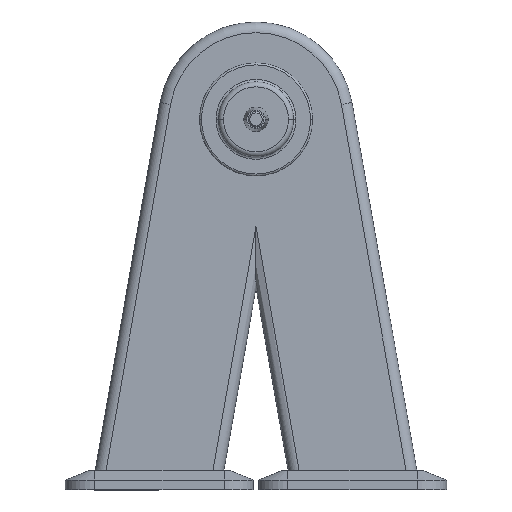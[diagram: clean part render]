
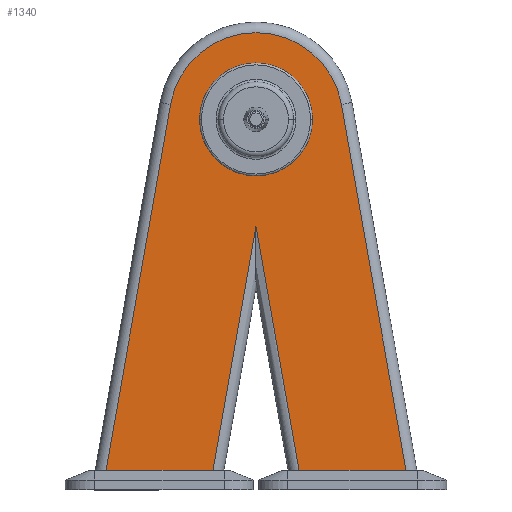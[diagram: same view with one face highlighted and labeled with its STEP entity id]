
A CAD part, top view. The second image highlights one B-rep face of the part: STEP entity #1340.
In plain terms, the highlighted planar face has unit normal (0, 0, 1).
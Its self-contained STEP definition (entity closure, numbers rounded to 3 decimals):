
#55 = ORIENTED_EDGE ( 'NONE', *, *, #2509, .T. ) ;
#260 = DIRECTION ( 'NONE',  ( 0., 0., 1. ) ) ;
#349 = ORIENTED_EDGE ( 'NONE', *, *, #4231, .F. ) ;
#456 = PLANE ( 'NONE',  #3910 ) ;
#478 = AXIS2_PLACEMENT_3D ( 'NONE', #1218, #3568, #1561 ) ;
#544 = DIRECTION ( 'NONE',  ( 0.174, -0.985, 0. ) ) ;
#666 = EDGE_CURVE ( 'NONE', #1329, #1596, #2459, .T. ) ;
#809 = FACE_BOUND ( 'NONE', #2759, .T. ) ;
#834 = CARTESIAN_POINT ( 'NONE',  ( -10.833, 209.147, 63. ) ) ;
#884 = CARTESIAN_POINT ( 'NONE',  ( 0., 20., 63. ) ) ;
#1218 = CARTESIAN_POINT ( 'NONE',  ( 0., 380., 63. ) ) ;
#1225 = VERTEX_POINT ( 'NONE', #2070 ) ;
#1249 = VECTOR ( 'NONE', #1796, 1000. ) ;
#1329 = VERTEX_POINT ( 'NONE', #3796 ) ;
#1340 = ADVANCED_FACE ( 'NONE', ( #809, #1598 ), #456, .T. ) ;
#1560 = CARTESIAN_POINT ( 'NONE',  ( 50.297, -14.664, 63. ) ) ;
#1561 = DIRECTION ( 'NONE',  ( 1., 0., 0. ) ) ;
#1575 = EDGE_CURVE ( 'NONE', #3230, #1329, #2656, .T. ) ;
#1582 = ORIENTED_EDGE ( 'NONE', *, *, #1878, .T. ) ;
#1596 = VERTEX_POINT ( 'NONE', #4288 ) ;
#1598 = FACE_OUTER_BOUND ( 'NONE', #4009, .T. ) ;
#1621 = CARTESIAN_POINT ( 'NONE',  ( 0., 380., 63. ) ) ;
#1796 = DIRECTION ( 'NONE',  ( -0.174, 0.985, 0. ) ) ;
#1809 = DIRECTION ( 'NONE',  ( 1., 0., 0. ) ) ;
#1833 = VERTEX_POINT ( 'NONE', #3431 ) ;
#1863 = CARTESIAN_POINT ( 'NONE',  ( -158.772, -7.91, 63. ) ) ;
#1878 = EDGE_CURVE ( 'NONE', #3514, #3230, #3937, .T. ) ;
#1884 = VECTOR ( 'NONE', #3062, 1000. ) ;
#1888 = ORIENTED_EDGE ( 'NONE', *, *, #666, .T. ) ;
#1963 = DIRECTION ( 'NONE',  ( 1., 0., 0. ) ) ;
#1998 = CARTESIAN_POINT ( 'NONE',  ( -44.185, 20., 63. ) ) ;
#2070 = CARTESIAN_POINT ( 'NONE',  ( 58., 380., 63. ) ) ;
#2074 = VERTEX_POINT ( 'NONE', #3302 ) ;
#2088 = VERTEX_POINT ( 'NONE', #1998 ) ;
#2091 = LINE ( 'NONE', #834, #3768 ) ;
#2100 = VERTEX_POINT ( 'NONE', #3676 ) ;
#2193 = EDGE_CURVE ( 'NONE', #3514, #2100, #2785, .T. ) ;
#2220 = CARTESIAN_POINT ( 'NONE',  ( 153.851, 20., 63. ) ) ;
#2287 = CARTESIAN_POINT ( 'NONE',  ( 0., 380., 63. ) ) ;
#2288 = AXIS2_PLACEMENT_3D ( 'NONE', #1621, #3963, #1963 ) ;
#2361 = VECTOR ( 'NONE', #2962, 1000. ) ;
#2420 = VECTOR ( 'NONE', #544, 1000. ) ;
#2459 = LINE ( 'NONE', #1863, #2361 ) ;
#2482 = LINE ( 'NONE', #884, #4153 ) ;
#2509 = EDGE_CURVE ( 'NONE', #2074, #2100, #3401, .T. ) ;
#2621 = DIRECTION ( 'NONE',  ( 1., 0., 0. ) ) ;
#2656 = CIRCLE ( 'NONE', #3595, 89. ) ;
#2718 = CARTESIAN_POINT ( 'NONE',  ( 0., 20., 63. ) ) ;
#2759 = EDGE_LOOP ( 'NONE', ( #3751, #349 ) ) ;
#2771 = ORIENTED_EDGE ( 'NONE', *, *, #1575, .T. ) ;
#2785 = LINE ( 'NONE', #2718, #1884 ) ;
#2812 = CARTESIAN_POINT ( 'NONE',  ( 0., 380., 63. ) ) ;
#2833 = CIRCLE ( 'NONE', #478, 58. ) ;
#2883 = ORIENTED_EDGE ( 'NONE', *, *, #2193, .F. ) ;
#2962 = DIRECTION ( 'NONE',  ( -0.174, -0.985, 0. ) ) ;
#3032 = EDGE_CURVE ( 'NONE', #2088, #2074, #2091, .T. ) ;
#3062 = DIRECTION ( 'NONE',  ( -1., 0., 0. ) ) ;
#3197 = DIRECTION ( 'NONE',  ( 0.174, 0.985, 0. ) ) ;
#3229 = DIRECTION ( 'NONE',  ( -1., 0., 0. ) ) ;
#3230 = VERTEX_POINT ( 'NONE', #3996 ) ;
#3255 = ORIENTED_EDGE ( 'NONE', *, *, #3032, .T. ) ;
#3302 = CARTESIAN_POINT ( 'NONE',  ( 0., 270.583, 63. ) ) ;
#3401 = LINE ( 'NONE', #1560, #2420 ) ;
#3431 = CARTESIAN_POINT ( 'NONE',  ( -58., 380., 63. ) ) ;
#3514 = VERTEX_POINT ( 'NONE', #2220 ) ;
#3561 = EDGE_CURVE ( 'NONE', #2088, #1596, #2482, .T. ) ;
#3568 = DIRECTION ( 'NONE',  ( 0., 0., 1. ) ) ;
#3595 = AXIS2_PLACEMENT_3D ( 'NONE', #2287, #260, #2621 ) ;
#3676 = CARTESIAN_POINT ( 'NONE',  ( 44.185, 20., 63. ) ) ;
#3751 = ORIENTED_EDGE ( 'NONE', *, *, #4105, .F. ) ;
#3768 = VECTOR ( 'NONE', #3197, 1000. ) ;
#3792 = CARTESIAN_POINT ( 'NONE',  ( 87.648, 395.455, 63. ) ) ;
#3796 = CARTESIAN_POINT ( 'NONE',  ( -87.648, 395.455, 63. ) ) ;
#3818 = DIRECTION ( 'NONE',  ( 0., 0., 1. ) ) ;
#3910 = AXIS2_PLACEMENT_3D ( 'NONE', #2812, #3818, #1809 ) ;
#3927 = ORIENTED_EDGE ( 'NONE', *, *, #3561, .F. ) ;
#3937 = LINE ( 'NONE', #3792, #1249 ) ;
#3963 = DIRECTION ( 'NONE',  ( 0., 0., 1. ) ) ;
#3996 = CARTESIAN_POINT ( 'NONE',  ( 87.648, 395.455, 63. ) ) ;
#4009 = EDGE_LOOP ( 'NONE', ( #3927, #3255, #55, #2883, #1582, #2771, #1888 ) ) ;
#4105 = EDGE_CURVE ( 'NONE', #1833, #1225, #2833, .T. ) ;
#4153 = VECTOR ( 'NONE', #3229, 1000. ) ;
#4231 = EDGE_CURVE ( 'NONE', #1225, #1833, #4304, .T. ) ;
#4288 = CARTESIAN_POINT ( 'NONE',  ( -153.851, 20., 63. ) ) ;
#4304 = CIRCLE ( 'NONE', #2288, 58. ) ;
